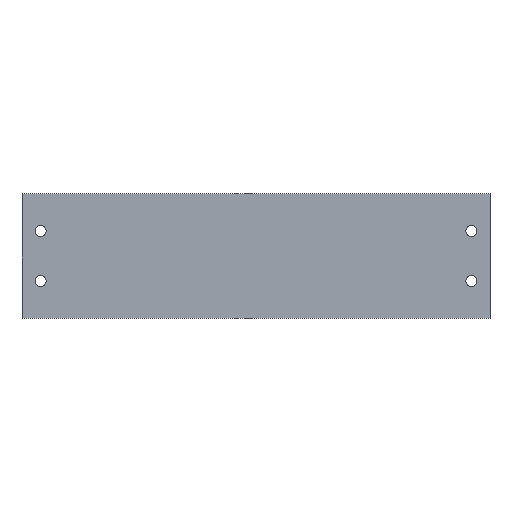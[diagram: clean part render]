
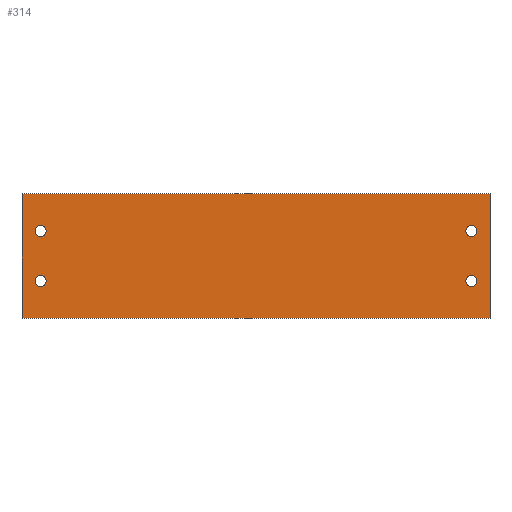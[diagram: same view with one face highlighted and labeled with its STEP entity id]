
A CAD part, top view. The second image highlights one B-rep face of the part: STEP entity #314.
In plain terms, the highlighted planar face has unit normal (0, 0, 1).
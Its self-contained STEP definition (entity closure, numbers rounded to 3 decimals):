
#65=CARTESIAN_POINT('',(-69.,8.,3.));
#66=DIRECTION('',(0.,0.,-1.));
#67=DIRECTION('',(1.,0.,0.));
#68=AXIS2_PLACEMENT_3D('',#65,#66,#67);
#70=CARTESIAN_POINT('',(-69.,8.,3.));
#71=DIRECTION('',(0.,0.,-1.));
#72=DIRECTION('',(-1.,0.,0.));
#73=AXIS2_PLACEMENT_3D('',#70,#71,#72);
#75=CARTESIAN_POINT('',(69.,8.,3.));
#76=DIRECTION('',(0.,0.,-1.));
#77=DIRECTION('',(1.,0.,0.));
#78=AXIS2_PLACEMENT_3D('',#75,#76,#77);
#80=CARTESIAN_POINT('',(69.,8.,3.));
#81=DIRECTION('',(0.,0.,-1.));
#82=DIRECTION('',(-1.,0.,0.));
#83=AXIS2_PLACEMENT_3D('',#80,#81,#82);
#85=CARTESIAN_POINT('',(-69.,-8.,3.));
#86=DIRECTION('',(0.,0.,-1.));
#87=DIRECTION('',(1.,0.,0.));
#88=AXIS2_PLACEMENT_3D('',#85,#86,#87);
#90=CARTESIAN_POINT('',(-69.,-8.,3.));
#91=DIRECTION('',(0.,0.,-1.));
#92=DIRECTION('',(-1.,0.,0.));
#93=AXIS2_PLACEMENT_3D('',#90,#91,#92);
#95=CARTESIAN_POINT('',(69.,-8.,3.));
#96=DIRECTION('',(0.,0.,-1.));
#97=DIRECTION('',(1.,0.,0.));
#98=AXIS2_PLACEMENT_3D('',#95,#96,#97);
#100=CARTESIAN_POINT('',(69.,-8.,3.));
#101=DIRECTION('',(0.,0.,-1.));
#102=DIRECTION('',(-1.,0.,0.));
#103=AXIS2_PLACEMENT_3D('',#100,#101,#102);
#105=DIRECTION('',(-1.,0.,0.));
#106=VECTOR('',#105,150.);
#107=CARTESIAN_POINT('',(75.,20.,3.));
#108=LINE('',#107,#106);
#109=DIRECTION('',(0.,1.,0.));
#110=VECTOR('',#109,40.);
#111=CARTESIAN_POINT('',(75.,-20.,3.));
#112=LINE('',#111,#110);
#113=DIRECTION('',(1.,0.,0.));
#114=VECTOR('',#113,150.);
#115=CARTESIAN_POINT('',(-75.,-20.,3.));
#116=LINE('',#115,#114);
#117=DIRECTION('',(0.,-1.,0.));
#118=VECTOR('',#117,40.);
#119=CARTESIAN_POINT('',(-75.,20.,3.));
#120=LINE('',#119,#118);
#185=CARTESIAN_POINT('',(-67.25,8.,3.));
#186=CARTESIAN_POINT('',(-70.75,8.,3.));
#187=VERTEX_POINT('',#185);
#188=VERTEX_POINT('',#186);
#189=CARTESIAN_POINT('',(70.75,8.,3.));
#190=CARTESIAN_POINT('',(67.25,8.,3.));
#191=VERTEX_POINT('',#189);
#192=VERTEX_POINT('',#190);
#193=CARTESIAN_POINT('',(-67.25,-8.,3.));
#194=CARTESIAN_POINT('',(-70.75,-8.,3.));
#195=VERTEX_POINT('',#193);
#196=VERTEX_POINT('',#194);
#197=CARTESIAN_POINT('',(70.75,-8.,3.));
#198=CARTESIAN_POINT('',(67.25,-8.,3.));
#199=VERTEX_POINT('',#197);
#200=VERTEX_POINT('',#198);
#201=CARTESIAN_POINT('',(75.,20.,3.));
#202=CARTESIAN_POINT('',(-75.,20.,3.));
#203=VERTEX_POINT('',#201);
#204=VERTEX_POINT('',#202);
#205=CARTESIAN_POINT('',(-75.,-20.,3.));
#206=VERTEX_POINT('',#205);
#207=CARTESIAN_POINT('',(75.,-20.,3.));
#208=VERTEX_POINT('',#207);
#277=CARTESIAN_POINT('',(0.,0.,3.));
#278=DIRECTION('',(0.,0.,1.));
#279=DIRECTION('',(1.,0.,0.));
#280=AXIS2_PLACEMENT_3D('',#277,#278,#279);
#281=PLANE('',#280);
#283=ORIENTED_EDGE('',*,*,#282,.F.);
#285=ORIENTED_EDGE('',*,*,#284,.F.);
#287=ORIENTED_EDGE('',*,*,#286,.F.);
#289=ORIENTED_EDGE('',*,*,#288,.F.);
#290=EDGE_LOOP('',(#283,#285,#287,#289));
#291=FACE_OUTER_BOUND('',#290,.F.);
#293=ORIENTED_EDGE('',*,*,#292,.F.);
#295=ORIENTED_EDGE('',*,*,#294,.F.);
#296=EDGE_LOOP('',(#293,#295));
#297=FACE_BOUND('',#296,.F.);
#299=ORIENTED_EDGE('',*,*,#298,.F.);
#301=ORIENTED_EDGE('',*,*,#300,.F.);
#302=EDGE_LOOP('',(#299,#301));
#303=FACE_BOUND('',#302,.F.);
#305=ORIENTED_EDGE('',*,*,#304,.F.);
#307=ORIENTED_EDGE('',*,*,#306,.F.);
#308=EDGE_LOOP('',(#305,#307));
#309=FACE_BOUND('',#308,.F.);
#310=ORIENTED_EDGE('',*,*,#257,.F.);
#311=ORIENTED_EDGE('',*,*,#271,.F.);
#312=EDGE_LOOP('',(#310,#311));
#313=FACE_BOUND('',#312,.F.);
#314=ADVANCED_FACE('',(#291,#297,#303,#309,#313),#281,.T.);
#69=CIRCLE('',#68,1.75);
#74=CIRCLE('',#73,1.75);
#79=CIRCLE('',#78,1.75);
#84=CIRCLE('',#83,1.75);
#89=CIRCLE('',#88,1.75);
#94=CIRCLE('',#93,1.75);
#99=CIRCLE('',#98,1.75);
#104=CIRCLE('',#103,1.75);
#257=EDGE_CURVE('',#187,#188,#69,.T.);
#271=EDGE_CURVE('',#188,#187,#74,.T.);
#282=EDGE_CURVE('',#203,#204,#108,.T.);
#284=EDGE_CURVE('',#208,#203,#112,.T.);
#286=EDGE_CURVE('',#206,#208,#116,.T.);
#288=EDGE_CURVE('',#204,#206,#120,.T.);
#292=EDGE_CURVE('',#191,#192,#79,.T.);
#294=EDGE_CURVE('',#192,#191,#84,.T.);
#298=EDGE_CURVE('',#195,#196,#89,.T.);
#300=EDGE_CURVE('',#196,#195,#94,.T.);
#304=EDGE_CURVE('',#199,#200,#99,.T.);
#306=EDGE_CURVE('',#200,#199,#104,.T.);
